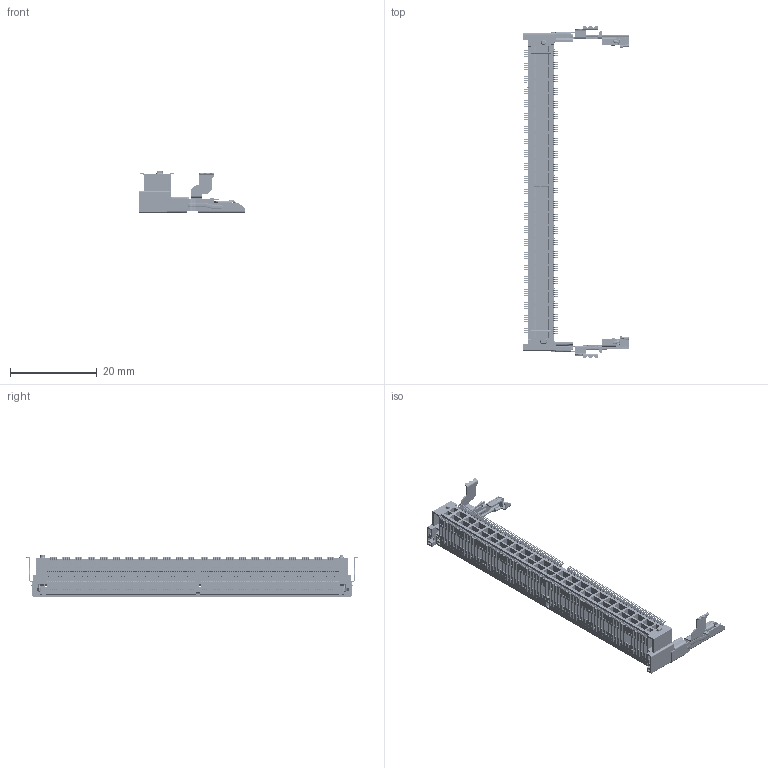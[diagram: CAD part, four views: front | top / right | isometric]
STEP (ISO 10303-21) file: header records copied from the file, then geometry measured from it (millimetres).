
FILE_DESCRIPTION((''),'2;1');
FILE_NAME('D5ASX-262XX-XX92X','2024-09-03T14:13:13',('MichaelSun'),(''),'CREO PARAMETRIC BY PTC INC, 2022424','CREO PARAMETRIC BY PTC INC, 2022424','');
FILE_SCHEMA(('AUTOMOTIVE_DESIGN { 1 0 10303 214 1 1 1 1 }'));
Products named in the file (1): D5ASX-262XX-XX92X
Bounding box: 24.41 x 76.41 x 9.65 mm (x, y, z)
Volume: 2207.2 mm3; surface area: 8114.2 mm2
Topology: 1 solids, 3 shells, 17721 faces, 54707 edges, 36363 vertices
Faces by surface type: plane 10805, cylinder 6626, bspline 128, cone 82, torus 78, sphere 2
Entity records: 702561 total; most frequent: CARTESIAN_POINT 114468, ORIENTED_EDGE 109402, DIRECTION 104427, EDGE_CURVE 54705, VECTOR 39571, LINE 39571, VERTEX_POINT 36363, AXIS2_PLACEMENT_3D 32428
